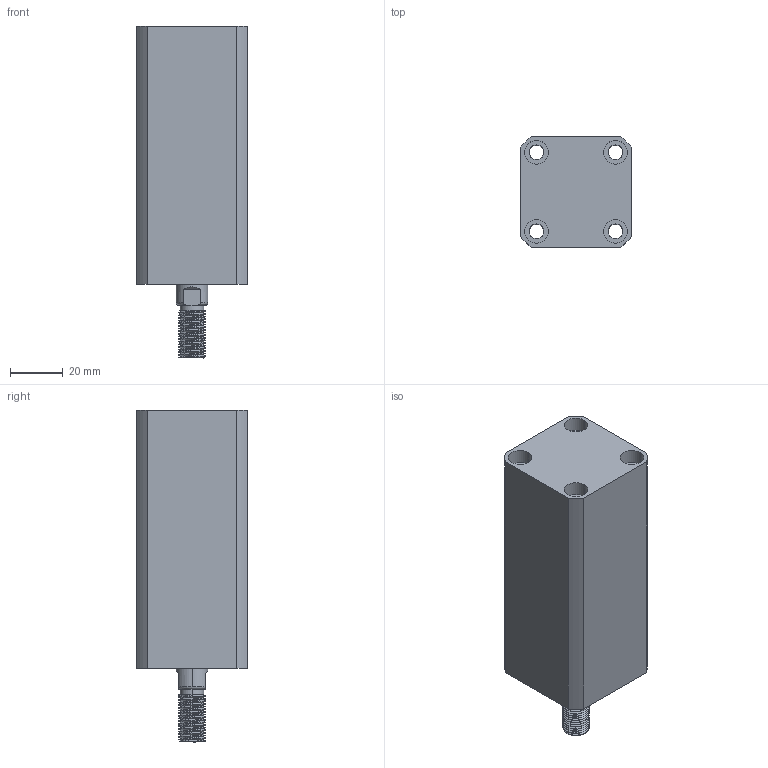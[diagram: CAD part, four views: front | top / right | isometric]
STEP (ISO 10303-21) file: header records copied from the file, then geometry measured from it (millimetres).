
FILE_DESCRIPTION (( 'STEP AP214' ), '1' );
FILE_NAME ('chtb-sd20x55w_asm.STEP', '2018-05-16T09:43:32', ( 'Windows' ), ( 'Microsoft' ), 'SwSTEP 2.0', 'SolidWorks 2015', '' );
FILE_SCHEMA (( 'AUTOMOTIVE_DESIGN' ));
Length unit declared in the file: millimetre
Products named in the file (4): chtb-sd20x55w_asm; QG; CHTB-SD20X55WHSG; CHTB-SD20X55NBT
Assembly tree (3 placements, depth 2):
  chtb-sd20x55w_asm
    CHTB-SD20X55NBT
    CHTB-SD20X55WHSG
    QG
Bounding box: 42 x 42 x 126 mm (x, y, z)
Volume: 146842.7 mm3; surface area: 43407.9 mm2
Topology: 3 solids, 3 shells, 234 faces, 624 edges, 415 vertices
Faces by surface type: cylinder 139, plane 40, torus 25, bspline 21, cone 9
Entity records: 13734 total; most frequent: CARTESIAN_POINT 8172, ORIENTED_EDGE 1240, DIRECTION 1039, EDGE_CURVE 620, AXIS2_PLACEMENT_3D 431, VERTEX_POINT 415, EDGE_LOOP 271, FACE_OUTER_BOUND 234
